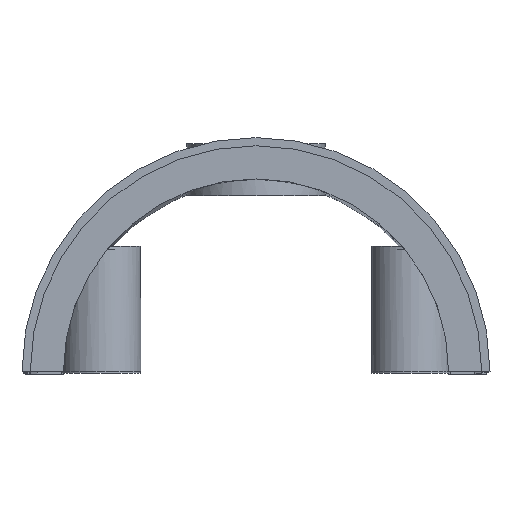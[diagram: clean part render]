
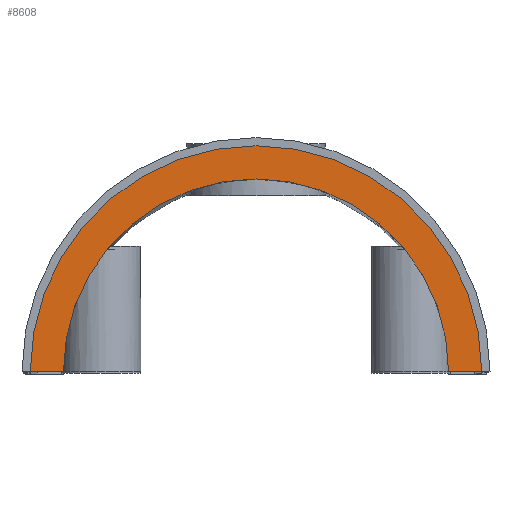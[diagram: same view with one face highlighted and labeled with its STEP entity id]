
A CAD part, top view. The second image highlights one B-rep face of the part: STEP entity #8608.
In plain terms, the highlighted planar face has unit normal (0, 0, 1).
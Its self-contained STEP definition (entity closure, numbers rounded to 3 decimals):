
#72 = PLANE('',#73);
#73 = AXIS2_PLACEMENT_3D('',#74,#75,#76);
#74 = CARTESIAN_POINT('',(-20.,0.,-2.));
#75 = DIRECTION('',(0.,1.,0.));
#76 = DIRECTION('',(0.,0.,1.));
#213 = PLANE('',#214);
#214 = AXIS2_PLACEMENT_3D('',#215,#216,#217);
#215 = CARTESIAN_POINT('',(-20.,0.,-2.));
#216 = DIRECTION('',(0.,1.,0.));
#217 = DIRECTION('',(0.,0.,1.));
#624 = VERTEX_POINT('',#625);
#625 = CARTESIAN_POINT('',(-15.,0.,110.));
#639 = CYLINDRICAL_SURFACE('',#640,15.);
#640 = AXIS2_PLACEMENT_3D('',#641,#642,#643);
#641 = CARTESIAN_POINT('',(0.,0.,0.));
#642 = DIRECTION('',(0.,0.,1.));
#643 = DIRECTION('',(1.,0.,0.));
#650 = EDGE_CURVE('',#651,#624,#653,.T.);
#651 = VERTEX_POINT('',#652);
#652 = CARTESIAN_POINT('',(-12.8,0.,110.));
#653 = SURFACE_CURVE('',#654,(#658,#665),.PCURVE_S1.);
#654 = LINE('',#655,#656);
#655 = CARTESIAN_POINT('',(-10.,0.,110.));
#656 = VECTOR('',#657,1.);
#657 = DIRECTION('',(-1.,0.,0.));
#658 = PCURVE('',#213,#659);
#659 = DEFINITIONAL_REPRESENTATION('',(#660),#664);
#660 = LINE('',#661,#662);
#661 = CARTESIAN_POINT('',(112.,10.));
#662 = VECTOR('',#663,1.);
#663 = DIRECTION('',(0.,-1.));
#664 = ( GEOMETRIC_REPRESENTATION_CONTEXT(2) 
PARAMETRIC_REPRESENTATION_CONTEXT() REPRESENTATION_CONTEXT('2D SPACE',''
  ) );
#665 = PCURVE('',#666,#671);
#666 = PLANE('',#667);
#667 = AXIS2_PLACEMENT_3D('',#668,#669,#670);
#668 = CARTESIAN_POINT('',(0.,0.,110.));
#669 = DIRECTION('',(0.,0.,1.));
#670 = DIRECTION('',(1.,0.,0.));
#671 = DEFINITIONAL_REPRESENTATION('',(#672),#675);
#672 = B_SPLINE_CURVE_WITH_KNOTS('',1,(#673,#674),.UNSPECIFIED.,.F.,.F.,
  (2,2),(-25.,5.),.PIECEWISE_BEZIER_KNOTS.);
#673 = CARTESIAN_POINT('',(15.,0.));
#674 = CARTESIAN_POINT('',(-15.,0.));
#675 = ( GEOMETRIC_REPRESENTATION_CONTEXT(2) 
PARAMETRIC_REPRESENTATION_CONTEXT() REPRESENTATION_CONTEXT('2D SPACE',''
  ) );
#693 = CYLINDRICAL_SURFACE('',#694,12.8);
#694 = AXIS2_PLACEMENT_3D('',#695,#696,#697);
#695 = CARTESIAN_POINT('',(0.,0.,0.));
#696 = DIRECTION('',(0.,0.,1.));
#697 = DIRECTION('',(1.,0.,0.));
#1470 = VERTEX_POINT('',#1471);
#1471 = CARTESIAN_POINT('',(12.8,0.,110.));
#1492 = EDGE_CURVE('',#1493,#1470,#1495,.T.);
#1493 = VERTEX_POINT('',#1494);
#1494 = CARTESIAN_POINT('',(15.,0.,110.));
#1495 = SURFACE_CURVE('',#1496,(#1500,#1506),.PCURVE_S1.);
#1496 = LINE('',#1497,#1498);
#1497 = CARTESIAN_POINT('',(-10.,0.,110.));
#1498 = VECTOR('',#1499,1.);
#1499 = DIRECTION('',(-1.,0.,0.));
#1500 = PCURVE('',#72,#1501);
#1501 = DEFINITIONAL_REPRESENTATION('',(#1502),#1505);
#1502 = B_SPLINE_CURVE_WITH_KNOTS('',1,(#1503,#1504),.UNSPECIFIED.,.F.,
  .F.,(2,2),(-25.,5.),.PIECEWISE_BEZIER_KNOTS.);
#1503 = CARTESIAN_POINT('',(112.,35.));
#1504 = CARTESIAN_POINT('',(112.,5.));
#1505 = ( GEOMETRIC_REPRESENTATION_CONTEXT(2) 
PARAMETRIC_REPRESENTATION_CONTEXT() REPRESENTATION_CONTEXT('2D SPACE',''
  ) );
#1506 = PCURVE('',#666,#1507);
#1507 = DEFINITIONAL_REPRESENTATION('',(#1508),#1511);
#1508 = B_SPLINE_CURVE_WITH_KNOTS('',1,(#1509,#1510),.UNSPECIFIED.,.F.,
  .F.,(2,2),(-25.,5.),.PIECEWISE_BEZIER_KNOTS.);
#1509 = CARTESIAN_POINT('',(15.,0.));
#1510 = CARTESIAN_POINT('',(-15.,0.));
#1511 = ( GEOMETRIC_REPRESENTATION_CONTEXT(2) 
PARAMETRIC_REPRESENTATION_CONTEXT() REPRESENTATION_CONTEXT('2D SPACE',''
  ) );
#4187 = EDGE_CURVE('',#1470,#651,#4188,.T.);
#4188 = SURFACE_CURVE('',#4189,(#4194,#4201),.PCURVE_S1.);
#4189 = CIRCLE('',#4190,12.8);
#4190 = AXIS2_PLACEMENT_3D('',#4191,#4192,#4193);
#4191 = CARTESIAN_POINT('',(0.,0.,110.));
#4192 = DIRECTION('',(0.,0.,1.));
#4193 = DIRECTION('',(1.,0.,0.));
#4194 = PCURVE('',#693,#4195);
#4195 = DEFINITIONAL_REPRESENTATION('',(#4196),#4200);
#4196 = LINE('',#4197,#4198);
#4197 = CARTESIAN_POINT('',(0.,110.));
#4198 = VECTOR('',#4199,1.);
#4199 = DIRECTION('',(1.,0.));
#4200 = ( GEOMETRIC_REPRESENTATION_CONTEXT(2) 
PARAMETRIC_REPRESENTATION_CONTEXT() REPRESENTATION_CONTEXT('2D SPACE',''
  ) );
#4201 = PCURVE('',#666,#4202);
#4202 = DEFINITIONAL_REPRESENTATION('',(#4203),#4207);
#4203 = CIRCLE('',#4204,12.8);
#4204 = AXIS2_PLACEMENT_2D('',#4205,#4206);
#4205 = CARTESIAN_POINT('',(0.,0.));
#4206 = DIRECTION('',(1.,0.));
#4207 = ( GEOMETRIC_REPRESENTATION_CONTEXT(2) 
PARAMETRIC_REPRESENTATION_CONTEXT() REPRESENTATION_CONTEXT('2D SPACE',''
  ) );
#8587 = EDGE_CURVE('',#1493,#624,#8588,.T.);
#8588 = SURFACE_CURVE('',#8589,(#8594,#8601),.PCURVE_S1.);
#8589 = CIRCLE('',#8590,15.);
#8590 = AXIS2_PLACEMENT_3D('',#8591,#8592,#8593);
#8591 = CARTESIAN_POINT('',(0.,0.,110.));
#8592 = DIRECTION('',(0.,0.,1.));
#8593 = DIRECTION('',(1.,0.,0.));
#8594 = PCURVE('',#639,#8595);
#8595 = DEFINITIONAL_REPRESENTATION('',(#8596),#8600);
#8596 = LINE('',#8597,#8598);
#8597 = CARTESIAN_POINT('',(0.,110.));
#8598 = VECTOR('',#8599,1.);
#8599 = DIRECTION('',(1.,0.));
#8600 = ( GEOMETRIC_REPRESENTATION_CONTEXT(2) 
PARAMETRIC_REPRESENTATION_CONTEXT() REPRESENTATION_CONTEXT('2D SPACE',''
  ) );
#8601 = PCURVE('',#666,#8602);
#8602 = DEFINITIONAL_REPRESENTATION('',(#8603),#8607);
#8603 = CIRCLE('',#8604,15.);
#8604 = AXIS2_PLACEMENT_2D('',#8605,#8606);
#8605 = CARTESIAN_POINT('',(0.,0.));
#8606 = DIRECTION('',(1.,0.));
#8607 = ( GEOMETRIC_REPRESENTATION_CONTEXT(2) 
PARAMETRIC_REPRESENTATION_CONTEXT() REPRESENTATION_CONTEXT('2D SPACE',''
  ) );
#8608 = ADVANCED_FACE('',(#8609),#666,.T.);
#8609 = FACE_BOUND('',#8610,.T.);
#8610 = EDGE_LOOP('',(#8611,#8612,#8613,#8614));
#8611 = ORIENTED_EDGE('',*,*,#1492,.F.);
#8612 = ORIENTED_EDGE('',*,*,#8587,.T.);
#8613 = ORIENTED_EDGE('',*,*,#650,.F.);
#8614 = ORIENTED_EDGE('',*,*,#4187,.F.);
